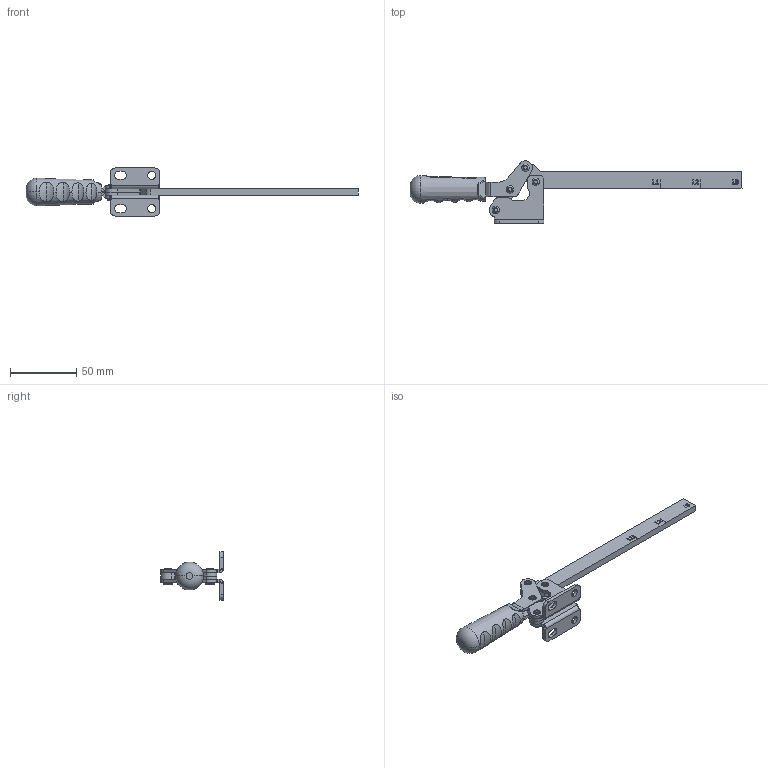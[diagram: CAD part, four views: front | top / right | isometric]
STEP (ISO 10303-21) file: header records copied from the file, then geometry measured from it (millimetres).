
FILE_DESCRIPTION (( 'STEP AP203' ), '1' );
FILE_NAME ('1202_Y_L.STEP', '2022-11-23T05:50:54', ( '' ), ( '' ), 'SwSTEP 2.0', 'SolidWorks 2023', '' );
FILE_SCHEMA (( 'CONFIG_CONTROL_DESIGN' ));
Length unit declared in the file: millimetre
Products named in the file (8): Pim_4x12_5_Varsayılan; C55_Yeni_Tutamak_Varsayılan; Y_1205_BaskıKolu_Lama l2 Almanya_Varsayılan; Y_1205_Mafsal_Varsayılan; Y_1205_GOVDE_Varsayılan; AynalamaY_1205_HareketKolu_Varsayılan; 1202_Y_L; Y_1205_HareketKolu_Varsayılan
Assembly tree (11 placements, depth 2):
  1202_Y_L
    Y_1205_GOVDE_Varsayılan
    Y_1205_HareketKolu_Varsayılan
    Y_1205_Mafsal_Varsayılan  x2
    Pim_4x12_5_Varsayılan  x4
    AynalamaY_1205_HareketKolu_Varsayılan
    C55_Yeni_Tutamak_Varsayılan
    Y_1205_BaskıKolu_Lama l2 Almanya_Varsayılan
Bounding box: 250.12 x 47.16 x 36.25 mm (x, y, z)
Volume: 37591.2 mm3; surface area: 26605.4 mm2
Topology: 12 solids, 12 shells, 799 faces, 2110 edges, 1366 vertices
Faces by surface type: plane 447, cylinder 202, bspline 114, torus 34, cone 2
Entity records: 25587 total; most frequent: CARTESIAN_POINT 9771, ORIENTED_EDGE 3302, DIRECTION 2729, EDGE_CURVE 1651, VERTEX_POINT 1076, LINE 1057, VECTOR 1057, AXIS2_PLACEMENT_3D 836
